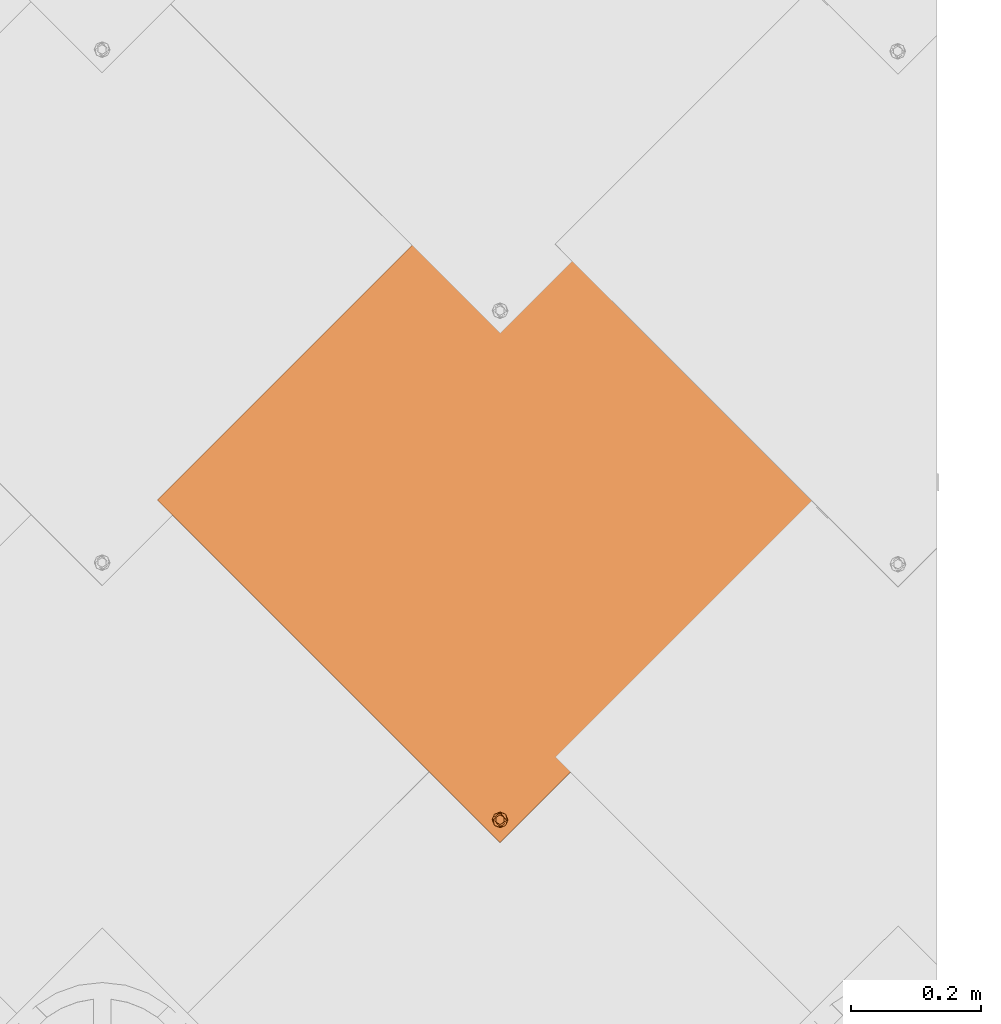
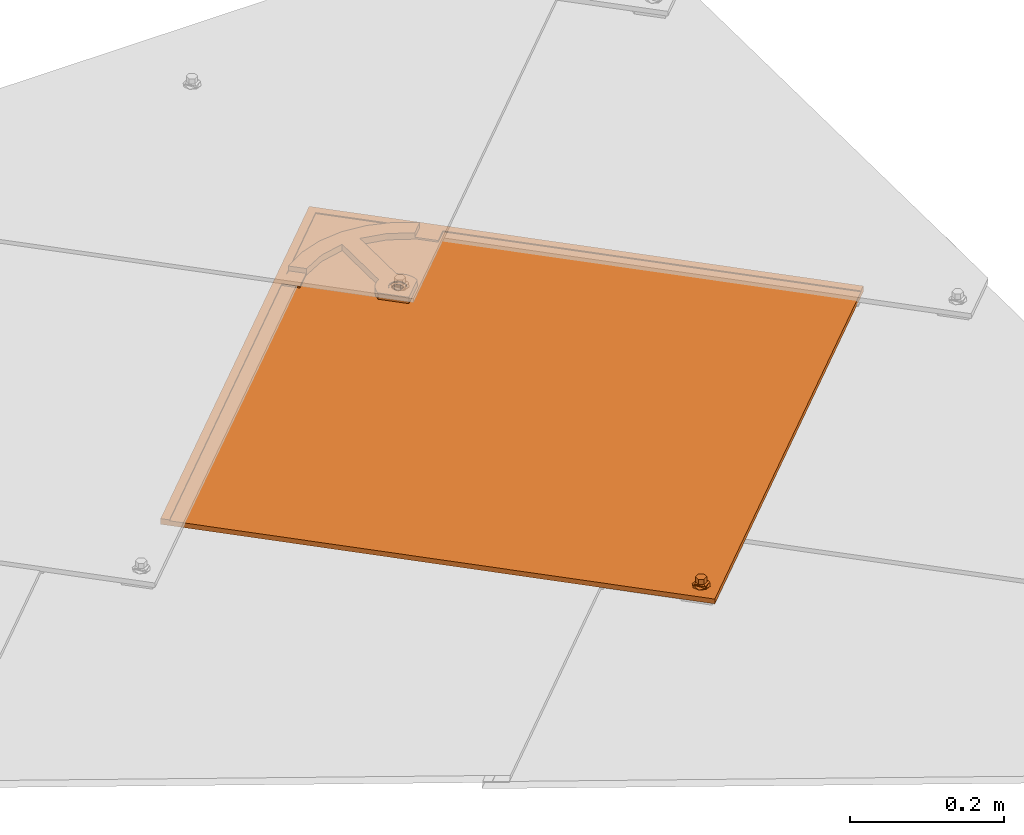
# One storey, part 86 of 151: 1 proxy.
"""IFC2X3 building model written with IfcOpenShell, lengths in millimetres."""

from ifc_helpers import new_model, entity, si_unit, converted_unit, derived_unit, direction, frame, origin, place, context, subcontext, project, spatial, faceted_brep, source, transform, mapped, material, material_list, type_object, type_shapes, element, save


model = new_model("IFC2X3")

# Units and contexts
model_context = context("Model", 3, precision=0.01, world=origin(), true_north=direction((6.12303176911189e-17, 1.0)))
body_context = subcontext(model_context, "Body", "Model", "MODEL_VIEW")
ifc_project = project(units=[si_unit("LENGTHUNIT", "METRE", prefix="MILLI"), si_unit("AREAUNIT", "SQUARE_METRE"), si_unit("VOLUMEUNIT", "CUBIC_METRE"), converted_unit("PLANEANGLEUNIT", "DEGREE", entity("IfcRatioMeasure", 0.0174532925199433), si_unit("PLANEANGLEUNIT", "RADIAN"), dimensions=[0, 0, 0, 0, 0, 0, 0]), si_unit("MASSUNIT", "GRAM", prefix="KILO"), derived_unit("MASSDENSITYUNIT", [(si_unit("MASSUNIT", "GRAM", prefix="KILO"), 1), (si_unit("LENGTHUNIT", "METRE"), -3)]), si_unit("TIMEUNIT", "SECOND"), si_unit("FREQUENCYUNIT", "HERTZ"), si_unit("THERMODYNAMICTEMPERATUREUNIT", "DEGREE_CELSIUS"), derived_unit("THERMALTRANSMITTANCEUNIT", [(si_unit("MASSUNIT", "GRAM", prefix="KILO"), 1), (si_unit("THERMODYNAMICTEMPERATUREUNIT", "KELVIN"), -1), (si_unit("TIMEUNIT", "SECOND"), -3)]), derived_unit("VOLUMETRICFLOWRATEUNIT", [(si_unit("LENGTHUNIT", "METRE"), 3), (si_unit("TIMEUNIT", "SECOND"), -1)]), si_unit("ELECTRICCURRENTUNIT", "AMPERE"), si_unit("ELECTRICVOLTAGEUNIT", "VOLT"), si_unit("POWERUNIT", "WATT"), si_unit("FORCEUNIT", "NEWTON", prefix="KILO"), si_unit("ILLUMINANCEUNIT", "LUX"), si_unit("LUMINOUSFLUXUNIT", "LUMEN"), si_unit("LUMINOUSINTENSITYUNIT", "CANDELA"), derived_unit("USERDEFINED", [(si_unit("MASSUNIT", "GRAM", prefix="KILO"), -1), (si_unit("LENGTHUNIT", "METRE"), -2), (si_unit("TIMEUNIT", "SECOND"), 3), (si_unit("LUMINOUSFLUXUNIT", "LUMEN"), 1)]), derived_unit("LINEARVELOCITYUNIT", [(si_unit("LENGTHUNIT", "METRE"), 1), (si_unit("TIMEUNIT", "SECOND"), -1)]), si_unit("PRESSUREUNIT", "PASCAL"), derived_unit("USERDEFINED", [(si_unit("LENGTHUNIT", "METRE"), -2), (si_unit("MASSUNIT", "GRAM", prefix="KILO"), 1), (si_unit("TIMEUNIT", "SECOND"), -2)])], contexts=[model_context])

# Site, building, storey
site_placement = place(None, origin())
site = spatial("IfcSite", under=ifc_project, at=site_placement, Name="Default", CompositionType="ELEMENT")
building_placement = place(site_placement, origin())
building = spatial("IfcBuilding", under=site, at=building_placement, CompositionType="ELEMENT")
storey_placement = place(building_placement, origin())
storey = spatial("IfcBuildingStorey", under=building, at=storey_placement, Name="Level 1", CompositionType="ELEMENT", Elevation=0.0)

# Proxy
ifc_material_1 = material(Name="Rubber - Sunstyle - Black")
ifc_material_2 = material(Name="Glass - Sunstyle - Tainted Black")
ifc_material_list_1 = material_list([ifc_material_1, ifc_material_2])
ifc_material_list_2 = material_list([ifc_material_1, ifc_material_2])
building_element_proxy_type = type_object("IfcBuildingElementProxyType", Name="Non PV Shingle - Black", PredefinedType="NOTDEFINED", material=ifc_material_list_2)
shared_shape = source(origin(), body_context, "Body", "Brep", [
    faceted_brep([(0.0, -485.159313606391, 4.00636906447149), (-5.77420283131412, -488.492583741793, 4.062193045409), (-5.77420283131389, -488.124274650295, 26.0540623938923), (0.0, -484.791004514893, 25.9982384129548), (-5.77420283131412, -495.159124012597, 4.17384100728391), (-5.7742028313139, -494.790814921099, 26.1657103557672), (0.0, -498.492394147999, 4.2296649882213), (0.0, -498.1240850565, 26.2215343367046), (5.77420283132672, -495.159124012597, 4.17384100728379), (5.77420283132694, -494.790814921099, 26.1657103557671), (5.77420283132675, -488.492583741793, 4.06219304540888), (5.77420283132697, -488.124274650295, 26.0540623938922), (-8.60370416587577, -500.060042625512, 26.2539568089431), (0.0, -503.623313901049, 26.3136327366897), (-12.1674751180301, -491.457544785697, 26.1098863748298), (-8.60370416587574, -482.855046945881, 25.9658159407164), (0.0, -479.291775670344, 25.9061400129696), (8.60370416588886, -482.855046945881, 25.9658159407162), (12.1674751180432, -491.457544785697, 26.1098863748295), (8.60370416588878, -500.060042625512, 26.2539568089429), (-11.3242446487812, -489.162467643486, 28.4227283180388), (-9.75647455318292, -491.386529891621, 30.3502110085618), (0.0, -484.073454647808, 30.9829114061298), (0.0, -482.832957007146, 30.4025647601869), (0.0, -480.675406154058, 29.3931896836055), (0.0, -503.067269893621, 27.5886907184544), (0.0, -502.123693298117, 29.7523951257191), (0.0, -498.67431759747, 31.227439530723), (0.0, -479.804811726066, 27.19910242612), (-6.32324569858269, -495.024101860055, 31.1663074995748), (-6.32324569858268, -487.723670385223, 31.0440434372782), (11.3242446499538, -493.673887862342, 28.4982833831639), (9.84888015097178, -492.460936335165, 30.2713428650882), (6.32324569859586, -487.723670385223, 31.0440434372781), (6.32324569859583, -495.024101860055, 31.1663074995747), (-6.32324569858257, -494.890073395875, 39.1691956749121), (0.0, -498.54028913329, 39.2303277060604), (0.0, -491.239857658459, 39.1080636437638), (-6.32324569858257, -487.589641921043, 39.0469316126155), (6.32324569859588, -494.890073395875, 39.169195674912), (6.32324569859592, -487.589641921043, 39.0469316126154), (0.0, -483.939426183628, 38.9857995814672), (0.0, -491.825853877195, 4.11801702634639)], [[[0, 1, 2, 3]], [[1, 4, 5, 2]], [[4, 6, 7, 5]], [[6, 8, 9, 7]], [[8, 10, 11, 9]], [[10, 0, 3, 11]], [[12, 7, 13]], [[7, 12, 5]], [[14, 5, 12]], [[5, 14, 2]], [[15, 2, 14]], [[3, 2, 15]], [[15, 16, 3]], [[16, 17, 3]], [[11, 3, 17]], [[11, 17, 18]], [[9, 11, 18]], [[18, 19, 9]], [[7, 9, 19]], [[19, 13, 7]], [[20, 14, 12]], [[21, 22, 23, 24]], [[24, 20, 21]], [[25, 20, 12]], [[26, 27, 21]], [[15, 14, 20]], [[12, 13, 25]], [[20, 28, 15]], [[28, 20, 24]], [[21, 27, 29]], [[21, 29, 30]], [[26, 21, 20]], [[20, 25, 26]], [[15, 28, 16]], [[21, 30, 22]], [[31, 18, 17]], [[28, 31, 17]], [[32, 27, 26]], [[26, 31, 32]], [[26, 25, 31]], [[25, 19, 31]], [[17, 16, 28]], [[31, 19, 18]], [[24, 31, 28]], [[33, 34, 32]], [[23, 22, 33]], [[24, 32, 31]], [[27, 32, 34]], [[32, 23, 33]], [[19, 25, 13]], [[32, 24, 23]], [[35, 36, 37]], [[37, 38, 35]], [[36, 39, 37]], [[40, 37, 39]], [[37, 40, 41]], [[37, 41, 38]], [[42, 6, 4]], [[4, 1, 42]], [[1, 0, 42]], [[42, 8, 6]], [[0, 10, 42]], [[8, 42, 10]], [[22, 30, 38, 41]], [[30, 29, 35, 38]], [[29, 27, 36, 35]], [[27, 34, 39, 36]], [[34, 33, 40, 39]], [[33, 22, 41, 40]]]),
    faceted_brep([(0.0, 284.789208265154, 20.3195200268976), (0.0, 289.288576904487, 20.2441667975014), (-8.60370416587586, 288.352479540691, 20.259844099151), (8.60370416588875, 288.352479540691, 20.2598440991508), (6.64022859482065, 293.121777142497, 20.1799702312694), (12.1674751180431, 296.954977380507, 20.1157736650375), (6.64022859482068, 300.788177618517, 20.0515770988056), (8.60370416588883, 305.557475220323, 19.9717032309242), (0.0, 304.621377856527, 19.9873805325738), (0.0, 309.12074649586, 19.9120273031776), (-8.60370416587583, 305.557475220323, 19.9717032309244), (-6.64022859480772, 300.788177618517, 20.0515770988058), (-12.1674751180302, 296.954977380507, 20.1157736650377), (-6.64022859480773, 293.121777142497, 20.1799702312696), (-6.6402282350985, 300.520254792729, 4.05382046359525), (0.0, 304.35345482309, 3.9896239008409), (-6.64022823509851, 292.853854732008, 4.18221358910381), (0.0, 289.020654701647, 4.24641015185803), (6.64022823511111, 292.853854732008, 4.18221358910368), (6.64022823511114, 300.520254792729, 4.05382046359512), (-8.60370416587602, 288.084556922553, 4.26208746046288), (0.0, 284.521285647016, 4.32176338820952), (-12.1674751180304, 296.687054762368, 4.11801702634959), (-8.603704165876, 305.289552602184, 3.97394659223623), (0.0, 308.852823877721, 3.91427066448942), (8.60370416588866, 305.289552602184, 3.97394659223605), (12.167475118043, 296.687054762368, 4.11801702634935), (8.60370416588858, 288.084556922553, 4.26208746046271)], [[[0, 1, 2]], [[1, 0, 3]], [[3, 4, 1]], [[4, 3, 5]], [[6, 4, 5]], [[5, 7, 6]], [[7, 8, 6]], [[8, 7, 9]], [[8, 9, 10]], [[10, 11, 8]], [[12, 11, 10]], [[2, 13, 12]], [[12, 13, 11]], [[13, 2, 1]], [[8, 11, 14, 15]], [[11, 13, 16, 14]], [[13, 1, 17, 16]], [[1, 4, 18, 17]], [[4, 6, 19, 18]], [[6, 8, 15, 19]], [[20, 17, 21]], [[17, 20, 16]], [[22, 16, 20]], [[14, 16, 22]], [[23, 14, 22]], [[15, 14, 23]], [[23, 24, 15]], [[24, 25, 15]], [[19, 15, 25]], [[19, 25, 26]], [[26, 18, 19]], [[26, 27, 18]], [[17, 18, 27]], [[27, 21, 17]], [[24, 23, 10, 9]], [[10, 23, 22, 12]], [[20, 21, 0, 2]], [[20, 2, 12, 22]], [[21, 27, 3, 0]], [[3, 27, 26, 5]], [[25, 24, 9, 7]], [[25, 7, 5, 26]]]),
    faceted_brep([(518.347125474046, -8.50591218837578, 16.4460771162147), (526.831811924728, -0.0212257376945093, 16.3039797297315), (526.831811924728, 0.00389200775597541, 17.8037694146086), (518.347125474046, -8.48079444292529, 17.9458668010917), (0.000322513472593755, 509.695546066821, 7.76749207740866), (-518.346480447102, -8.50591218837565, 16.4460771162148), (-526.831166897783, -0.021225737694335, 16.3039797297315), (0.000322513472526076, 526.662539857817, 7.48333714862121), (0.000322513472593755, 526.687657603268, 8.98312683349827), (-526.831166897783, 0.00389200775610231, 17.8037694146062), (-518.346480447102, -8.48079444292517, 17.9458668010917), (0.000322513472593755, 509.720663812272, 9.26728176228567)], [[[0, 1, 2, 3]], [[1, 0, 4, 5, 6, 7]], [[2, 1, 7, 8]], [[3, 2, 8, 9, 10, 11]], [[0, 3, 11, 4]], [[5, 10, 9, 6]], [[8, 7, 6, 9]], [[4, 11, 10, 5]]]),
    faceted_brep([(0.000322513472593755, 526.662539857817, 7.48333714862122), (-3.10582854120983, 308.054627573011, 11.1444757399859), (0.0, 308.46346032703, 11.1376288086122), (-6.0, 306.855990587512, 11.1645499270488), (3.10582854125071, 308.054627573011, 11.1444757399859), (6.0, 306.855990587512, 11.1645499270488), (8.4852813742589, 304.949234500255, 11.1964833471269), (10.3923048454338, 302.464301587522, 11.2380997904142), (-8.48528137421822, 304.949234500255, 11.1964833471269), (-10.3923048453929, 302.464301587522, 11.2380997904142), (-11.5911099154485, 299.570535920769, 11.2865631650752), (-526.831166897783, -0.0212257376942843, 16.3039797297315), (11.5911099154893, 299.570535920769, 11.2865631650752), (526.831811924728, -0.021225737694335, 16.3039797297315), (-12.0, 296.465142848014, 11.3385707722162), (-11.5911099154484, 293.359749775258, 11.3905783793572), (-10.392304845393, 290.465984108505, 11.4390417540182), (-8.48528137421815, 287.981051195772, 11.4806581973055), (-6.0, 286.074295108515, 11.5125916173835), (-3.10582854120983, 284.875658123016, 11.5326658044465), (-2.07055236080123, -483.623303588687, 24.4031112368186), (-4.0, -484.422394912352, 24.4164940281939), (-5.65685424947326, -485.693565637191, 24.4377829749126), (-6.92820323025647, -487.350187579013, 24.4655272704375), (-7.72740661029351, -489.279364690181, 24.4978361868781), (-8.0, -491.349626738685, 24.5325079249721), (-7.72740661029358, -493.419888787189, 24.5671796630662), (0.000322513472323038, -526.704991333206, 25.1246223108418), (-6.92820323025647, -495.349065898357, 24.5994885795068), (-5.65685424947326, -497.005687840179, 24.6272328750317), (-4.0, -498.276858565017, 24.6485218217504), (-2.0705523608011, -499.075949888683, 24.6619046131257), (0.0, -499.348505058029, 24.6664692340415), (2.07055236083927, -499.075949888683, 24.6619046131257), (4.0, -498.276858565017, 24.6485218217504), (5.65685424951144, -497.005687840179, 24.6272328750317), (6.92820323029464, -495.349065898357, 24.5994885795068), (7.72740661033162, -493.419888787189, 24.5671796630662), (12.0, 296.465142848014, 11.3385707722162), (11.5911099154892, 293.359749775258, 11.3905783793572), (10.3923048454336, 290.465984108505, 11.4390417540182), (8.4852813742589, 287.981051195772, 11.4806581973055), (6.0, 286.074295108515, 11.5125916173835), (3.10582854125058, 284.875658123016, 11.5326658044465), (2.07055236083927, -483.623303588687, 24.4031112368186), (4.0, -484.422394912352, 24.4164940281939), (5.65685424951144, -485.69356563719, 24.4377829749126), (8.0, -491.349626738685, 24.5325079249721), (7.72740661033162, -489.279364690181, 24.4978361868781), (6.92820323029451, -487.350187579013, 24.4655272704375), (0.0, 284.466825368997, 11.5395127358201), (0.0, -483.350748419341, 24.3985466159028), (-526.831166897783, -0.146814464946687, 8.80503130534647), (-6.92820323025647, -487.475776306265, 16.9665788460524), (-7.72740661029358, -489.404953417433, 16.9988877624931), (-5.65685424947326, -485.819154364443, 16.9388345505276), (-8.0, -491.475215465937, 17.0335595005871), (-7.72740661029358, -493.545477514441, 17.0682312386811), (0.000322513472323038, -526.830580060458, 17.6256738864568), (-4.0, -484.547983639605, 16.9175456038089), (-2.07055236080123, -483.748892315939, 16.9041628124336), (-3.10582854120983, 284.750069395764, 4.03371738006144), (-6.0, 285.948706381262, 4.01364319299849), (-8.48528137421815, 287.85546246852, 3.98170977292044), (-10.392304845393, 290.340395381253, 3.94009332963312), (-11.5911099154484, 293.234161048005, 3.89162995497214), (-12.0, 296.339554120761, 3.83962234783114), (-11.5911099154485, 299.444947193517, 3.78761474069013), (0.000322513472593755, 526.536951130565, -0.0156112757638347), (-10.3923048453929, 302.338712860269, 3.73915136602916), (-8.48528137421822, 304.823645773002, 3.69753492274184), (-6.0, 306.73040186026, 3.66560150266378), (-3.10582854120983, 307.929038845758, 3.64552731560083), (0.0, 308.337871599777, 3.63868038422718), (3.10582854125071, 307.929038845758, 3.64552731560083), (6.0, 306.73040186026, 3.66560150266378), (8.4852813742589, 304.823645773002, 3.69753492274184), (10.3923048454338, 302.338712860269, 3.73915136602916), (11.5911099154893, 299.444947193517, 3.78761474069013), (526.831811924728, -0.146814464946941, 8.80503130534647), (7.72740661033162, -493.545477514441, 17.0682312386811), (8.0, -491.475215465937, 17.0335595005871), (7.72740661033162, -489.404953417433, 16.9988877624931), (6.92820323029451, -487.475776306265, 16.9665788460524), (5.65685424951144, -485.819154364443, 16.9388345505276), (4.0, -484.547983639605, 16.9175456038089), (2.07055236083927, -483.748892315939, 16.9041628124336), (3.10582854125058, 284.750069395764, 4.03371738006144), (6.0, 285.948706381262, 4.01364319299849), (12.0, 296.339554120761, 3.83962234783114), (11.5911099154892, 293.234161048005, 3.89162995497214), (10.3923048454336, 290.340395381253, 3.94009332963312), (8.4852813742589, 287.85546246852, 3.98170977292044), (0.0, 284.341236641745, 4.04056431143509), (0.0, -483.476337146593, 16.8995981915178), (-6.92820323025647, -495.474654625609, 17.1005401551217), (-5.65685424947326, -497.131276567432, 17.1282844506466), (-4.0, -498.40244729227, 17.1495733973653), (-2.0705523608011, -499.201538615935, 17.1629561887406), (0.0, -499.474093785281, 17.1675208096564), (2.07055236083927, -499.201538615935, 17.1629561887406), (4.0, -498.40244729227, 17.1495733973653), (5.65685424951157, -497.131276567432, 17.1282844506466), (6.92820323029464, -495.474654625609, 17.1005401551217)], [[[0, 1, 2]], [[1, 0, 3]], [[0, 2, 4]], [[4, 5, 0]], [[5, 6, 0]], [[0, 6, 7]], [[8, 3, 0]], [[9, 8, 0]], [[9, 0, 10]], [[10, 0, 11]], [[12, 0, 7]], [[12, 13, 0]], [[11, 14, 10]], [[14, 11, 15]], [[16, 15, 11]], [[16, 11, 17]], [[18, 17, 11]], [[11, 19, 18]], [[19, 11, 20]], [[21, 20, 11]], [[11, 22, 21]], [[22, 11, 23]], [[23, 11, 24]], [[25, 24, 11]], [[25, 11, 26]], [[26, 11, 27]], [[27, 28, 26]], [[29, 28, 27]], [[30, 29, 27]], [[31, 30, 27]], [[27, 32, 31]], [[32, 27, 33]], [[34, 33, 27]], [[34, 27, 35]], [[36, 35, 27]], [[37, 36, 27]], [[37, 27, 13]], [[12, 38, 13]], [[39, 13, 38]], [[13, 39, 40]], [[13, 40, 41]], [[41, 42, 13]], [[42, 43, 13]], [[13, 43, 44]], [[45, 13, 44]], [[46, 13, 45]], [[47, 37, 13]], [[48, 47, 13]], [[49, 48, 13]], [[46, 49, 13]], [[20, 50, 19]], [[51, 50, 20]], [[44, 50, 51]], [[43, 50, 44]], [[52, 53, 54]], [[53, 52, 55]], [[52, 54, 56]], [[56, 57, 52]], [[52, 57, 58]], [[59, 55, 52]], [[60, 59, 52]], [[60, 52, 61]], [[61, 52, 62]], [[63, 62, 52]], [[64, 63, 52]], [[65, 64, 52]], [[66, 65, 52]], [[66, 52, 67]], [[52, 68, 67]], [[69, 67, 68]], [[70, 69, 68]], [[68, 71, 70]], [[71, 68, 72]], [[72, 68, 73]], [[74, 73, 68]], [[74, 68, 75]], [[76, 75, 68]], [[68, 77, 76]], [[77, 68, 78]], [[68, 79, 78]], [[58, 80, 79]], [[81, 79, 80]], [[81, 82, 79]], [[82, 83, 79]], [[84, 79, 83]], [[79, 84, 85]], [[85, 86, 79]], [[87, 79, 86]], [[87, 88, 79]], [[89, 78, 79]], [[79, 90, 89]], [[90, 79, 91]], [[92, 91, 79]], [[92, 79, 88]], [[93, 60, 61]], [[93, 86, 94]], [[94, 60, 93]], [[87, 86, 93]], [[58, 57, 95]], [[96, 58, 95]], [[96, 97, 58]], [[97, 98, 58]], [[99, 58, 98]], [[58, 99, 100]], [[58, 100, 101]], [[101, 102, 58]], [[102, 103, 58]], [[103, 80, 58]], [[11, 0, 68, 52]], [[27, 11, 52, 58]], [[13, 27, 58, 79]], [[0, 13, 79, 68]], [[25, 56, 54, 24]], [[24, 54, 53, 23]], [[21, 22, 55, 59]], [[55, 22, 23, 53]], [[20, 21, 59, 60]], [[20, 60, 94, 51]], [[51, 94, 86, 44]], [[44, 86, 85, 45]], [[49, 46, 84, 83]], [[84, 46, 45, 85]], [[48, 49, 83, 82]], [[48, 82, 81, 47]], [[47, 81, 80, 37]], [[37, 80, 103, 36]], [[34, 35, 102, 101]], [[102, 35, 36, 103]], [[33, 34, 101, 100]], [[33, 100, 99, 32]], [[32, 99, 98, 31]], [[31, 98, 97, 30]], [[28, 29, 96, 95]], [[96, 29, 30, 97]], [[26, 28, 95, 57]], [[26, 57, 56, 25]], [[14, 66, 67, 10]], [[10, 67, 69, 9]], [[3, 8, 70, 71]], [[70, 8, 9, 69]], [[1, 3, 71, 72]], [[1, 72, 73, 2]], [[2, 73, 74, 4]], [[4, 74, 75, 5]], [[7, 6, 76, 77]], [[76, 6, 5, 75]], [[12, 7, 77, 78]], [[12, 78, 89, 38]], [[38, 89, 90, 39]], [[39, 90, 91, 40]], [[42, 41, 92, 88]], [[40, 91, 92, 41]], [[87, 43, 42, 88]], [[43, 87, 93, 50]], [[50, 93, 61, 19]], [[19, 61, 62, 18]], [[16, 17, 63, 64]], [[63, 17, 18, 62]], [[15, 16, 64, 65]], [[15, 65, 66, 14]]]),
    faceted_brep([(-103.640919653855, 371.082989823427, 12.5892580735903), (-81.5635806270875, 393.15723338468, 12.2195694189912), (-98.1147183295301, 409.705441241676, 11.9424281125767), (-106.2656930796, 403.014562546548, 12.0544836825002), (-113.962762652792, 395.806279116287, 12.1752044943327), (-121.16572423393, 388.605337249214, 12.295802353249), (121.446435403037, 388.886009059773, 12.2911017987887), (110.715435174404, 399.614000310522, 12.1114346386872), (104.744439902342, 405.287275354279, 12.0164213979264), (98.4920378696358, 410.648923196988, 11.9266271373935), (98.074476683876, 410.231479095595, 11.933618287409), (98.234751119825, 410.108922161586, 11.9356708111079), (98.3948723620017, 409.986165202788, 11.9377266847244), (81.6917048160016, 393.285339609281, 12.2174239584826), (103.769043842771, 371.211096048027, 12.5871126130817), (-23.2046504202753, 315.000563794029, 21.029550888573), (-8.48528137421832, 305.451589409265, 21.1894724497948), (-18.7041061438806, 319.633569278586, 20.951959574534), (-10.392304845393, 302.966656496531, 21.2310888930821), (-26.5842195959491, 309.496413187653, 21.1217317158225), (-11.5911099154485, 300.072890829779, 21.2795522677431), (-28.6795527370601, 303.387013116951, 21.2240489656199), (-12.0, 296.967497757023, 21.3315598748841), (-29.3894280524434, 296.967497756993, 21.3315598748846), (-11.5911099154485, 293.862104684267, 21.3835674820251), (-10.392304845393, 290.968339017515, 21.4320308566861), (-8.48528137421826, 288.483406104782, 21.4736472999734), (0.0, 267.58219039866, 21.8236906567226), (-6.0, 286.576650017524, 21.5055807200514), (-3.10582854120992, 285.378013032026, 21.5256549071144), (0.0, 284.969180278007, 21.532501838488), (3.10582854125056, 285.378013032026, 21.5256549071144), (6.0, 286.576650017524, 21.5055807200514), (8.48528137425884, 288.483406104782, 21.4736472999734), (29.389428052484, 296.967497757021, 21.3315598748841), (10.3923048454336, 290.968339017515, 21.4320308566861), (11.5911099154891, 293.862104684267, 21.3835674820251), (12.0, 296.967497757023, 21.3315598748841), (28.6795527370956, 303.387013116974, 21.2240489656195), (11.5911099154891, 300.072890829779, 21.2795522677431), (26.5842195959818, 309.49641318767, 21.1217317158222), (10.3923048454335, 302.966656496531, 21.2310888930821), (23.2046504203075, 315.000563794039, 21.0295508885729), (8.48528137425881, 305.451589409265, 21.1894724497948), (18.7041061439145, 319.633569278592, 20.9519595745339), (6.0, 307.358345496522, 21.1575390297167), (13.3000000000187, 323.171617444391, 20.8927060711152), (3.10582854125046, 308.55698248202, 21.1374648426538), (0.0, 308.965815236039, 21.1306179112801), (-13.2999999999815, 323.171617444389, 20.8927060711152), (-13.2999999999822, 418.050603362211, 19.3037191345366), (13.3000000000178, 418.050603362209, 19.3037191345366), (0.0, 443.522216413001, 18.8771329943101), (34.9852699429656, 439.689674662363, 18.9413185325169), (48.8881158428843, 409.917561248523, 19.4399273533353), (68.3106161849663, 428.373889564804, 19.1308297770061), (81.1868897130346, 392.906184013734, 19.7248255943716), (98.3948723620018, 410.11175393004, 19.4366751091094), (-34.9852699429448, 439.689674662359, 18.941318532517), (-48.8881158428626, 409.917561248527, 19.4399273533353), (-68.3106161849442, 428.373889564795, 19.1308297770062), (-81.1868897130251, 392.906184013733, 19.7248255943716), (-98.3948723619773, 410.111753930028, 19.4366751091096), (-6.0, 307.358345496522, 21.1575390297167), (-3.10582854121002, 308.55698248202, 21.1374648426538), (0.0, 267.414738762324, 11.8250927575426), (0.0, 284.80172864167, 11.533903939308), (3.10582854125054, 285.210561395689, 11.5270570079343), (-3.10582854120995, 285.210561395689, 11.5270570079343), (6.0, 286.409198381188, 11.5069828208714), (8.48528137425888, 288.315954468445, 11.4750494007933), (29.389428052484, 296.800046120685, 11.332961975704), (-6.0, 286.409198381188, 11.5069828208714), (-8.48528137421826, 288.315954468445, 11.4750494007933), (-29.3894280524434, 296.800046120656, 11.3329619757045), (-10.392304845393, 290.800887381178, 11.433432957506), (-11.5911099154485, 293.694653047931, 11.384969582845), (-12.0, 296.800046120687, 11.332961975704), (-28.6795527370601, 303.219561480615, 11.2254510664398), (-11.5911099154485, 299.905439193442, 11.280954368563), (-26.5842195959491, 309.328961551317, 11.1231338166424), (-10.392304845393, 302.799204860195, 11.232490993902), (-23.2046504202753, 314.833112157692, 11.030952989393), (-8.48528137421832, 305.284137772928, 11.1908745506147), (-18.7041061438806, 319.466117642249, 10.9533616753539), (-6.0, 307.190893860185, 11.1589411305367), (-13.2999999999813, 323.004165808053, 10.8941081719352), (-3.10582854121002, 308.389530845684, 11.1388669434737), (0.0, 308.798363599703, 11.1320200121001), (13.3000000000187, 323.004165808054, 10.8941081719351), (13.3000000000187, 417.883151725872, 9.30512123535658), (-13.2999999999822, 417.883151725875, 9.30512123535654), (-0.199443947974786, 443.35464169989, 8.87853715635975), (-35.1150635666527, 439.493384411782, 8.94320360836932), (-48.8881158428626, 409.75010961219, 9.44132945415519), (-68.3708539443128, 428.178324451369, 9.13270270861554), (-81.5627248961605, 393.11622608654, 9.71990561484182), (-81.1868897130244, 392.738732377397, 9.72622769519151), (-98.1143736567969, 409.663842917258, 9.44277420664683), (-106.2656930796, 402.972699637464, 9.5548342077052), (-103.640919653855, 371.041126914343, 10.0896085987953), (-113.962762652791, 395.764416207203, 9.67555501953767), (-121.16572423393, 388.56347434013, 9.79615287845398), (-98.3948723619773, 409.944302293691, 9.43807720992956), (34.7256001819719, 439.579582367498, 8.94176000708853), (48.8881158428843, 409.750109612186, 9.44132945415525), (68.0092206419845, 428.346649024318, 9.12988369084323), (81.6917048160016, 393.243476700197, 9.71777448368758), (98.0744766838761, 410.189616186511, 9.43396881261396), (104.744439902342, 405.245412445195, 9.51677192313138), (98.4920378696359, 410.607060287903, 9.42697766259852), (110.715435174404, 399.572137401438, 9.61178516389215), (103.769043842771, 371.169233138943, 10.0874631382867), (121.446435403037, 388.844146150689, 9.7914523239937), (81.1868897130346, 392.738732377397, 9.7262276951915), (3.10582854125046, 308.389530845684, 11.1388669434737), (6.0, 307.190893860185, 11.1589411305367), (18.7041061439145, 319.466117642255, 10.9533616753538), (8.48528137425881, 305.284137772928, 11.1908745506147), (23.2046504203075, 314.833112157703, 11.0309529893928), (10.3923048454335, 302.799204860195, 11.232490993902), (26.5842195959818, 309.328961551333, 11.1231338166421), (11.5911099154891, 299.905439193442, 11.280954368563), (28.6795527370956, 303.219561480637, 11.2254510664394), (12.0, 296.800046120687, 11.332961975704), (10.3923048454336, 290.800887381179, 11.433432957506), (11.5911099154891, 293.694653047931, 11.384969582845)], [[[0, 1, 2, 3, 4, 5]], [[6, 7, 8, 9, 10, 11, 12, 13, 14]], [[15, 16, 17]], [[18, 16, 15]], [[19, 18, 15]], [[20, 18, 19]], [[19, 21, 20]], [[21, 22, 20]], [[22, 21, 23]], [[24, 22, 23]], [[25, 24, 23]], [[25, 23, 26]], [[23, 27, 26]], [[28, 26, 27]], [[28, 27, 29]], [[27, 30, 29]], [[30, 27, 31]], [[31, 27, 32]], [[33, 32, 27]], [[33, 27, 34]], [[34, 35, 33]], [[36, 35, 34]], [[37, 36, 34]], [[34, 38, 37]], [[39, 37, 38]], [[38, 40, 39]], [[40, 41, 39]], [[41, 40, 42]], [[43, 41, 42]], [[42, 44, 43]], [[45, 43, 44]], [[44, 46, 45]], [[45, 46, 47]], [[47, 46, 48]], [[46, 49, 48]], [[46, 50, 49]], [[46, 51, 50]], [[52, 50, 51]], [[51, 53, 52]], [[51, 54, 53]], [[53, 54, 55]], [[54, 56, 55]], [[56, 57, 55]], [[58, 50, 52]], [[50, 58, 59]], [[60, 59, 58]], [[60, 61, 59]], [[61, 60, 62]], [[63, 49, 17]], [[63, 64, 49]], [[49, 64, 48]], [[63, 17, 16]], [[65, 66, 67]], [[66, 65, 68]], [[65, 67, 69]], [[69, 70, 65]], [[65, 70, 71]], [[72, 68, 65]], [[72, 65, 73]], [[73, 65, 74]], [[74, 75, 73]], [[75, 74, 76]], [[76, 74, 77]], [[78, 77, 74]], [[79, 77, 78]], [[78, 80, 79]], [[79, 80, 81]], [[80, 82, 81]], [[83, 81, 82]], [[84, 83, 82]], [[84, 85, 83]], [[86, 85, 84]], [[86, 87, 85]], [[88, 87, 86]], [[89, 88, 86]], [[89, 86, 90]], [[91, 90, 86]], [[91, 92, 90]], [[92, 91, 93]], [[94, 93, 91]], [[93, 94, 95]], [[94, 96, 95]], [[94, 97, 96]], [[98, 95, 96]], [[99, 98, 96]], [[96, 100, 99]], [[99, 100, 101]], [[102, 101, 100]], [[95, 98, 103]], [[104, 90, 92]], [[90, 104, 105]], [[106, 105, 104]], [[107, 105, 106]], [[106, 108, 107]], [[108, 109, 107]], [[109, 108, 110]], [[111, 107, 109]], [[111, 112, 107]], [[113, 112, 111]], [[107, 114, 105]], [[115, 88, 89]], [[116, 115, 89]], [[116, 89, 117]], [[117, 118, 116]], [[119, 118, 117]], [[119, 120, 118]], [[119, 121, 120]], [[121, 122, 120]], [[122, 121, 123]], [[71, 124, 123]], [[124, 122, 123]], [[71, 70, 125]], [[125, 126, 71]], [[126, 124, 71]], [[49, 50, 91, 86]], [[17, 49, 86, 84]], [[15, 17, 84, 82]], [[82, 80, 19, 15]], [[21, 19, 80, 78]], [[23, 21, 78, 74]], [[27, 23, 74, 65]], [[0, 5, 102, 100]], [[34, 27, 65, 71]], [[6, 14, 112, 113]], [[38, 34, 71, 123]], [[40, 38, 123, 121]], [[121, 119, 42, 40]], [[44, 42, 119, 117]], [[46, 44, 117, 89]], [[51, 46, 89, 90]], [[11, 10, 57]], [[108, 106, 10]], [[10, 106, 55]], [[12, 11, 57]], [[57, 10, 55]], [[106, 53, 55]], [[106, 104, 53]], [[52, 104, 92]], [[92, 93, 58]], [[95, 60, 93]], [[52, 92, 58]], [[95, 62, 60]], [[60, 58, 93]], [[62, 95, 103]], [[104, 52, 53]], [[22, 77, 79, 20]], [[20, 79, 81, 18]], [[63, 16, 83, 85]], [[81, 83, 16, 18]], [[64, 63, 85, 87]], [[88, 48, 64, 87]], [[47, 115, 116, 45]], [[45, 116, 118, 43]], [[39, 41, 120, 122]], [[118, 120, 41, 43]], [[37, 39, 122, 124]], [[47, 48, 88, 115]], [[37, 124, 126, 36]], [[36, 126, 125, 35]], [[32, 33, 70, 69]], [[125, 70, 33, 35]], [[31, 32, 69, 67]], [[66, 30, 31, 67]], [[29, 68, 72, 28]], [[28, 72, 73, 26]], [[24, 25, 75, 76]], [[73, 75, 25, 26]], [[22, 24, 76, 77]], [[29, 30, 66, 68]], [[7, 6, 113, 111]], [[7, 111, 109, 8]], [[109, 110, 9, 8]], [[14, 13, 107, 112]], [[1, 0, 100, 96]], [[2, 98, 3]], [[3, 98, 99]], [[99, 101, 4, 3]], [[5, 4, 101, 102]], [[97, 94, 59, 61]], [[91, 50, 59, 94]], [[90, 105, 54, 51]], [[114, 56, 54, 105]], [[10, 9, 110, 108]], [[62, 2, 1]], [[2, 62, 103]], [[61, 62, 1, 97]], [[103, 98, 2]], [[96, 97, 1]], [[57, 56, 114, 107, 13, 12]]]),
])
type_shapes(building_element_proxy_type, [shared_shape])
proxy_placement = place(storey_placement, frame((-16541.462554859, 15859.3976162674, 0.0)))
element("IfcBuildingElementProxy", 1, at=proxy_placement, inside=storey, type_object=building_element_proxy_type, material=ifc_material_list_1, Name="Roofing_Panels_SunStyle_Tile_Non-PV-Shingle:Non PV Shingle - Black", ObjectType="Roofing_Panels_SunStyle_Tile_Non-PV-Shingle:Non PV Shingle - Black", context=body_context, shape_type="MappedRepresentation", body=[
    mapped(shared_shape, transform((0.0, 0.0, 0.0), scale=1.0)),
])

save(model, "model.ifc")
